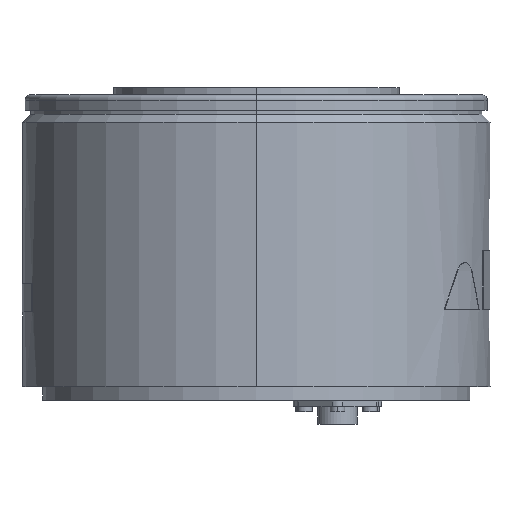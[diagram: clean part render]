
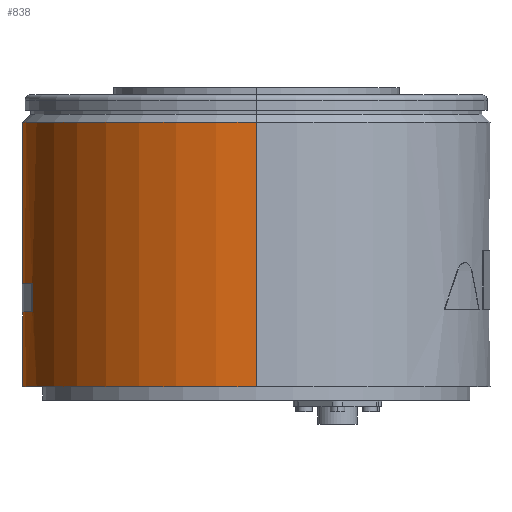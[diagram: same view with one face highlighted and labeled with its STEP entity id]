
A CAD part, left-side view. The second image highlights one B-rep face of the part: STEP entity #838.
In plain terms, the highlighted cylindrical face has radius 87.5 mm (diameter 175 mm), a partial arc.
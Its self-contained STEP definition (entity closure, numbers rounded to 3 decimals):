
#766 = VERTEX_POINT ( 'NONE', #3891 ) ;
#768 = EDGE_CURVE ( 'NONE', #769, #766, #3890, .T. ) ;
#769 = VERTEX_POINT ( 'NONE', #3948 ) ;
#838 = ADVANCED_FACE ( 'NONE', ( #4075, #4074 ), #4073, .T. ) ;
#839 = EDGE_LOOP ( 'NONE', ( #840, #844, #847, #908 ) ) ;
#840 = ORIENTED_EDGE ( 'NONE', *, *, #841, .T. ) ;
#841 = EDGE_CURVE ( 'NONE', #842, #843, #4067, .T. ) ;
#842 = VERTEX_POINT ( 'NONE', #4063 ) ;
#843 = VERTEX_POINT ( 'NONE', #4062 ) ;
#844 = ORIENTED_EDGE ( 'NONE', *, *, #845, .T. ) ;
#845 = EDGE_CURVE ( 'NONE', #843, #846, #4061, .T. ) ;
#846 = VERTEX_POINT ( 'NONE', #4057 ) ;
#847 = ORIENTED_EDGE ( 'NONE', *, *, #848, .T. ) ;
#848 = EDGE_CURVE ( 'NONE', #846, #907, #4055, .T. ) ;
#907 = VERTEX_POINT ( 'NONE', #4194 ) ;
#908 = ORIENTED_EDGE ( 'NONE', *, *, #909, .T. ) ;
#909 = EDGE_CURVE ( 'NONE', #907, #842, #4193, .T. ) ;
#910 = EDGE_LOOP ( 'NONE', ( #911, #912, #915, #918 ) ) ;
#911 = ORIENTED_EDGE ( 'NONE', *, *, #768, .T. ) ;
#912 = ORIENTED_EDGE ( 'NONE', *, *, #913, .T. ) ;
#913 = EDGE_CURVE ( 'NONE', #766, #914, #4189, .T. ) ;
#914 = VERTEX_POINT ( 'NONE', #4185 ) ;
#915 = ORIENTED_EDGE ( 'NONE', *, *, #916, .F. ) ;
#916 = EDGE_CURVE ( 'NONE', #917, #914, #4184, .T. ) ;
#917 = VERTEX_POINT ( 'NONE', #4179 ) ;
#918 = ORIENTED_EDGE ( 'NONE', *, *, #919, .F. ) ;
#919 = EDGE_CURVE ( 'NONE', #769, #917, #4178, .T. ) ;
#3890 = CIRCLE ( 'NONE', #3952, 87.5 ) ;
#3891 = CARTESIAN_POINT ( 'NONE',  ( 87.5, 0., 104. ) ) ;
#3948 = CARTESIAN_POINT ( 'NONE',  ( -87.5, 0., 104. ) ) ;
#3949 = DIRECTION ( 'NONE',  ( -1., 0., 0. ) ) ;
#3950 = DIRECTION ( 'NONE',  ( 0., 0., -1. ) ) ;
#3951 = CARTESIAN_POINT ( 'NONE',  ( 0., 0., 104. ) ) ;
#3952 = AXIS2_PLACEMENT_3D ( 'NONE', #3951, #3950, #3949 ) ;
#4051 = DIRECTION ( 'NONE',  ( 1., 0., 0. ) ) ;
#4052 = DIRECTION ( 'NONE',  ( 0., 0., -1. ) ) ;
#4053 = CARTESIAN_POINT ( 'NONE',  ( 0., 0., 33. ) ) ;
#4054 = AXIS2_PLACEMENT_3D ( 'NONE', #4053, #4052, #4051 ) ;
#4055 = CIRCLE ( 'NONE', #4054, 87.5 ) ;
#4057 = CARTESIAN_POINT ( 'NONE',  ( -25., 83.853, 33. ) ) ;
#4058 = DIRECTION ( 'NONE',  ( 0., 0., -1. ) ) ;
#4059 = VECTOR ( 'NONE', #4058, 1000. ) ;
#4060 = CARTESIAN_POINT ( 'NONE',  ( -25., 83.853, -59.236 ) ) ;
#4061 = LINE ( 'NONE', #4060, #4059 ) ;
#4062 = CARTESIAN_POINT ( 'NONE',  ( -25., 83.853, 43.5 ) ) ;
#4063 = CARTESIAN_POINT ( 'NONE',  ( 25., 83.853, 43.5 ) ) ;
#4064 = DIRECTION ( 'NONE',  ( -1., 0., 0. ) ) ;
#4065 = DIRECTION ( 'NONE',  ( 0., 0., 1. ) ) ;
#4066 = AXIS2_PLACEMENT_3D ( 'NONE', #4072, #4065, #4064 ) ;
#4067 = CIRCLE ( 'NONE', #4066, 87.5 ) ;
#4068 = DIRECTION ( 'NONE',  ( -1., 0., 0. ) ) ;
#4069 = DIRECTION ( 'NONE',  ( 0., 0., -1. ) ) ;
#4070 = CARTESIAN_POINT ( 'NONE',  ( 0., 0., -59.236 ) ) ;
#4071 = AXIS2_PLACEMENT_3D ( 'NONE', #4070, #4069, #4068 ) ;
#4072 = CARTESIAN_POINT ( 'NONE',  ( 0., 0., 43.5 ) ) ;
#4073 = CYLINDRICAL_SURFACE ( 'NONE', #4071, 87.5 ) ;
#4074 = FACE_OUTER_BOUND ( 'NONE', #910, .T. ) ;
#4075 = FACE_BOUND ( 'NONE', #839, .T. ) ;
#4175 = DIRECTION ( 'NONE',  ( 0., 0., -1. ) ) ;
#4176 = VECTOR ( 'NONE', #4175, 1000. ) ;
#4177 = CARTESIAN_POINT ( 'NONE',  ( -87.5, 0., -59.236 ) ) ;
#4178 = LINE ( 'NONE', #4177, #4176 ) ;
#4179 = CARTESIAN_POINT ( 'NONE',  ( -87.5, 0., 5. ) ) ;
#4180 = DIRECTION ( 'NONE',  ( -1., 0., 0. ) ) ;
#4181 = DIRECTION ( 'NONE',  ( 0., 0., -1. ) ) ;
#4182 = CARTESIAN_POINT ( 'NONE',  ( 0., 0., 5. ) ) ;
#4183 = AXIS2_PLACEMENT_3D ( 'NONE', #4182, #4181, #4180 ) ;
#4184 = CIRCLE ( 'NONE', #4183, 87.5 ) ;
#4185 = CARTESIAN_POINT ( 'NONE',  ( 87.5, 0., 5. ) ) ;
#4186 = DIRECTION ( 'NONE',  ( 0., 0., -1. ) ) ;
#4187 = VECTOR ( 'NONE', #4186, 1000. ) ;
#4188 = CARTESIAN_POINT ( 'NONE',  ( 87.5, 0., -59.236 ) ) ;
#4189 = LINE ( 'NONE', #4188, #4187 ) ;
#4190 = DIRECTION ( 'NONE',  ( 0., 0., 1. ) ) ;
#4191 = VECTOR ( 'NONE', #4190, 1000. ) ;
#4192 = CARTESIAN_POINT ( 'NONE',  ( 25., 83.853, -59.236 ) ) ;
#4193 = LINE ( 'NONE', #4192, #4191 ) ;
#4194 = CARTESIAN_POINT ( 'NONE',  ( 25., 83.853, 33. ) ) ;
